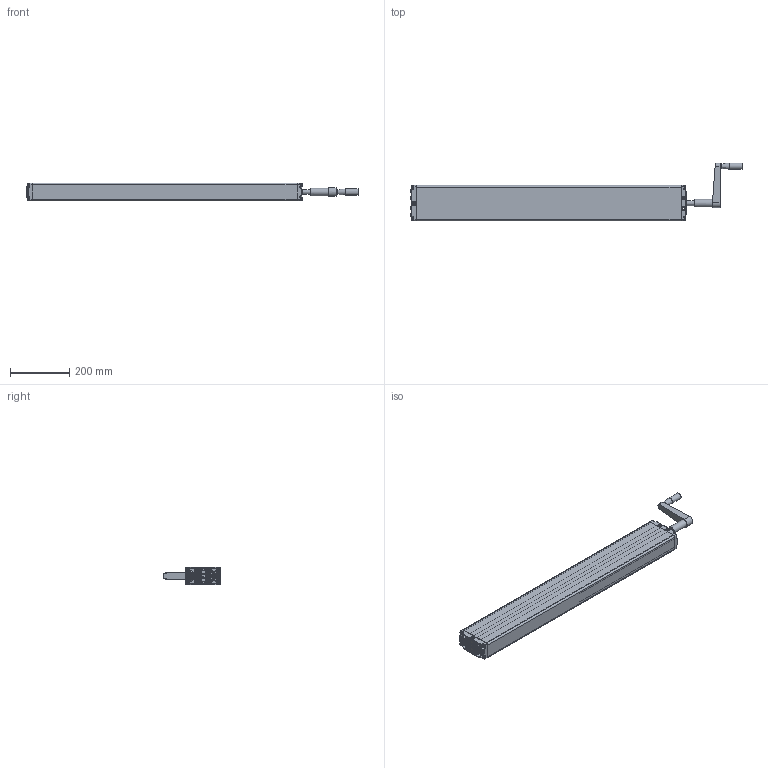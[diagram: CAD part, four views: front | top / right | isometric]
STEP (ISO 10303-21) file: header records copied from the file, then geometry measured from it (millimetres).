
FILE_DESCRIPTION(/* description */ ('Unknown'),/* implementation_level */ '2;1');
FILE_NAME(/* name */ '312.20040 Pumpe PB 6866 W mit Handkurbel',/* time_stamp */ '2016-10-03T15:22:21+02:00',/* author */ ('Unknown'),/* organization */ ('Unknown'),/* preprocessor_version */ 'ST-DEVELOPER v16.7',/* originating_system */ 'DEX',/* authorisation */ $);
FILE_SCHEMA (('AUTOMOTIVE_DESIGN {1 0 10303 214 3 1 1}'));
Products named in the file (21): 102.20040; 115.00038; 125.00045; 115.00008; 142.00021; 125.00021; 113.00005; 128.00001; 125.00052; 126.00013; 125.00053; 127.00014; Handgriff; 142.00013; 125.00147; 115.00140; 126.00006; 122.00040; 119.00047; 126.00005; 142.00057
Assembly tree (32 placements, depth 3):
  102.20040
    115.00038  x6
      125.00045
      115.00008
      142.00021
      125.00021
    113.00005
      128.00001
      125.00052
      126.00013
      125.00053
      127.00014
      Handgriff
    142.00013  x8
    125.00147
    115.00140
      126.00006
      122.00040
    119.00047
    126.00005
    142.00057
Bounding box: 1120.22 x 195.5 x 60.3 mm (x, y, z)
Volume: 1245447.7 mm3; surface area: 819607.8 mm2
Topology: 38 solids, 38 shells, 2679 faces, 6323 edges, 3658 vertices
Faces by surface type: plane 755, bspline 707, cylinder 597, cone 384, torus 176, sphere 60
Full cylindrical faces by diameter (mm): 3.5 x6, 4 x2, 4.1 x6, 4.2 x7, 4.917 x2, 5 x8, 6.917 x12, 8 x14, 9.8 x8, 10 x4, 10.4 x1, 12.8 x1, 13 x1, 14 x1, 14.4 x6, 16 x2, 17 x1, 17.3 x6, 17.9 x12, 18 x1, 19 x1, 20.6 x1, 21 x1, 22 x1, 25.5 x1
Entity records: 101220 total; most frequent: CARTESIAN_POINT 55695, ORIENTED_EDGE 8526, DIRECTION 6939, EDGE_CURVE 4263, AXIS2_PLACEMENT_3D 2790, VERTEX_POINT 2625, FACE_BOUND 2108, EDGE_LOOP 2105
